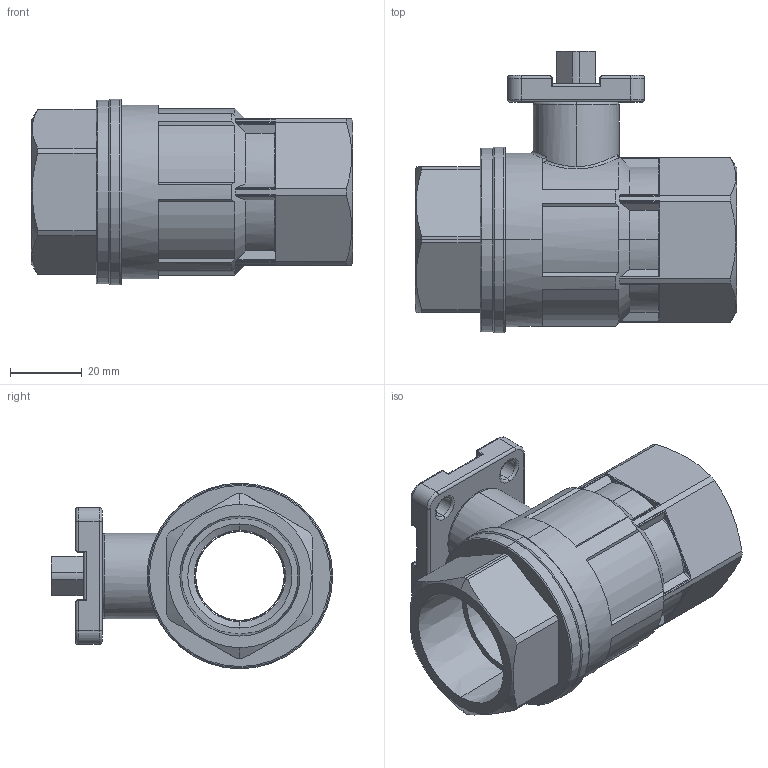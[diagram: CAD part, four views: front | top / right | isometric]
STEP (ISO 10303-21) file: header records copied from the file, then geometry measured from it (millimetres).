
FILE_DESCRIPTION (( 'STEP AP203' ), '1' );
FILE_NAME ('S2F-8.STEP', '2021-06-30T19:09:23', ( 'Owner' ), ( '' ), 'SwSTEP 2.0', 'SolidWorks 2017', '' );
FILE_SCHEMA (( 'CONFIG_CONTROL_DESIGN' ));
Length unit declared in the file: inch
Products named in the file (2): S2F-8
Bounding box: 89.39 x 78.27 x 51.63 mm (x, y, z)
Volume: 94881 mm3; surface area: 30699.3 mm2
Topology: 3 solids, 3 shells, 375 faces, 959 edges, 588 vertices
Faces by surface type: cylinder 152, plane 102, bspline 54, torus 44, cone 23
Entity records: 15127 total; most frequent: CARTESIAN_POINT 6481, ORIENTED_EDGE 1902, DIRECTION 1623, EDGE_CURVE 951, AXIS2_PLACEMENT_3D 635, VERTEX_POINT 588, EDGE_LOOP 397, FACE_OUTER_BOUND 375
